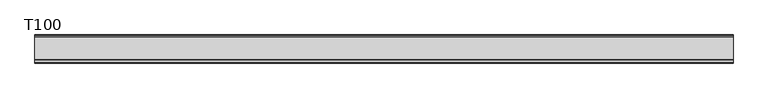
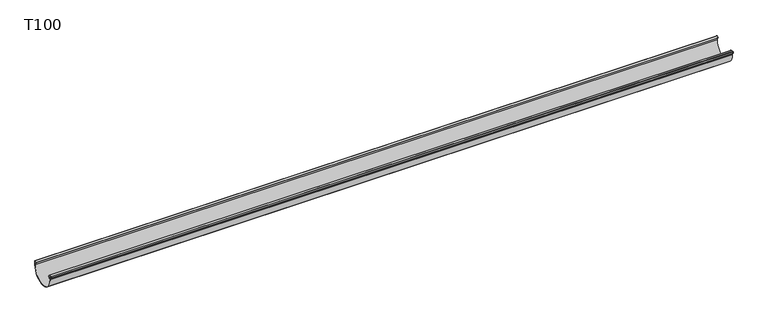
"""IFC4 building model written with IfcOpenShell, lengths in millimetres: proxy geometry, GROVIK_Gutter_Straight : T100."""

from ifc_helpers import new_model, si_unit, point, frame, frame_2d, origin, place, context, project, spatial, polyline, circle_curve, trimmed, segment, composite_curve, outline, extrude, source, transform, mapped, element, save


def t100_25e9c31b(model_context):
    return source(origin(), model_context, "Body", "SweptSolid", [
        extrude(outline(composite_curve([segment(polyline([(95.6785725, -12.9222473), (100.8871557, -13.3779392)]), True, "CONTINUOUS"), segment(trimmed(circle_curve(frame_2d((100.8, -14.3741339)), 1.0), [point((100.8871557, -13.3779392))], [point((101.8, -14.3741339))], False, "CARTESIAN"), True, "CONTINUOUS"), segment(polyline([(101.8, -14.3741339), (101.8, -16.3578028)]), True, "CONTINUOUS"), segment(trimmed(circle_curve(frame_2d((50.9, -16.3578028)), 50.9), [point((101.8, -16.3578028))], [point((0.0, -16.3578028))], False, "CARTESIAN"), True, "CONTINUOUS"), segment(polyline([(0.0, -16.3578028), (0.0, -0.5)]), True, "CONTINUOUS"), segment(trimmed(circle_curve(frame_2d((0.5, -0.5)), 0.5), [point((0.0, -0.5))], [point((0.8213938, -0.1169778))], False, "CARTESIAN"), True, "CONTINUOUS"), segment(polyline([(0.8213938, -0.1169778), (6.2279844, -4.6536459), (5.6494755, -5.3430859), (0.9, -1.3578028), (0.9, -16.3578028)]), True, "CONTINUOUS"), segment(trimmed(circle_curve(frame_2d((50.9, -16.3578028)), 50.0), [point((0.9, -16.3578028))], [point((100.9, -16.3578028))], True, "CARTESIAN"), True, "CONTINUOUS"), segment(polyline([(100.9, -16.3578028), (100.9, -14.2825008), (95.683723, -13.8261357)]), True, "CONTINUOUS"), segment(trimmed(circle_curve(frame_2d((95.683723, -12.9170968)), 0.909039), [point((95.683723, -13.8261357))], [point((94.7746841, -12.9170968))], False, "CARTESIAN"), True, "CONTINUOUS"), segment(polyline([(94.7746841, -12.9170968), (93.9345391, -3.3141955)]), True, "CONTINUOUS"), segment(trimmed(circle_curve(frame_2d((94.9307338, -3.2270397)), 1.0), [point((93.9345391, -3.3141955))], [point((94.7570856, -2.2422319))], False, "CARTESIAN"), True, "CONTINUOUS"), segment(polyline([(94.7570856, -2.2422319), (104.6051631, -0.5057502)]), True, "CONTINUOUS"), segment(trimmed(circle_curve(frame_2d((104.6923189, -1.5019449)), 1.0), [point((104.6051631, -0.5057502))], [point((105.6885136, -1.4147891))], False, "CARTESIAN"), True, "CONTINUOUS"), segment(polyline([(105.6885136, -1.4147891), (106.1850202, -7.0898858)]), True, "CONTINUOUS"), segment(trimmed(circle_curve(frame_2d((105.1888255, -7.1770416)), 1.0), [point((106.1850202, -7.0898858))], [point((105.0151773, -8.1618493))], False, "CARTESIAN"), True, "CONTINUOUS"), segment(polyline([(105.0151773, -8.1618493), (98.1850202, -6.9575084), (98.3413035, -6.0711813), (105.2998033, -7.2981526), (104.7816977, -1.3761787), (94.8220658, -3.1323306), (95.6785725, -12.9222473)]), True, "CONTINUOUS")], self_intersect=False)), frame((2633.7818703, 0.0, -2.6327819), z_axis=(-0.999999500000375, 0.0, 0.000999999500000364), x_axis=(0.0, -1.0, 0.0)), (0.0, 0.0, 1.0), 2632.7831867),
    ])


if __name__ == "__main__":
    model = new_model("IFC4")
    model_context = context("Model", 3, world=origin())
    ifc_project = project(units=[si_unit("LENGTHUNIT", "METRE", prefix="MILLI")], contexts=[model_context])
    site = spatial("IfcSite", under=ifc_project)
    building = spatial("IfcBuilding", under=site)
    placement = place(None, origin())
    t100_shape = t100_25e9c31b(model_context)
    element("IfcBuildingElementProxy", 1, Name="GROVIK_Gutter_Straight : T100", ObjectType="GROVIK_Gutter_Straight : T100", at=placement, inside=building, context=model_context, shape_type="MappedRepresentation", body=[
        mapped(t100_shape, transform((0.0, 0.0, 0.0), x_axis=(1.0, 0.0, 0.0), y_axis=(0.0, 1.0, 0.0), z_axis=(0.0, 0.0, 1.0))),
    ])
    save(model, "model.ifc")
